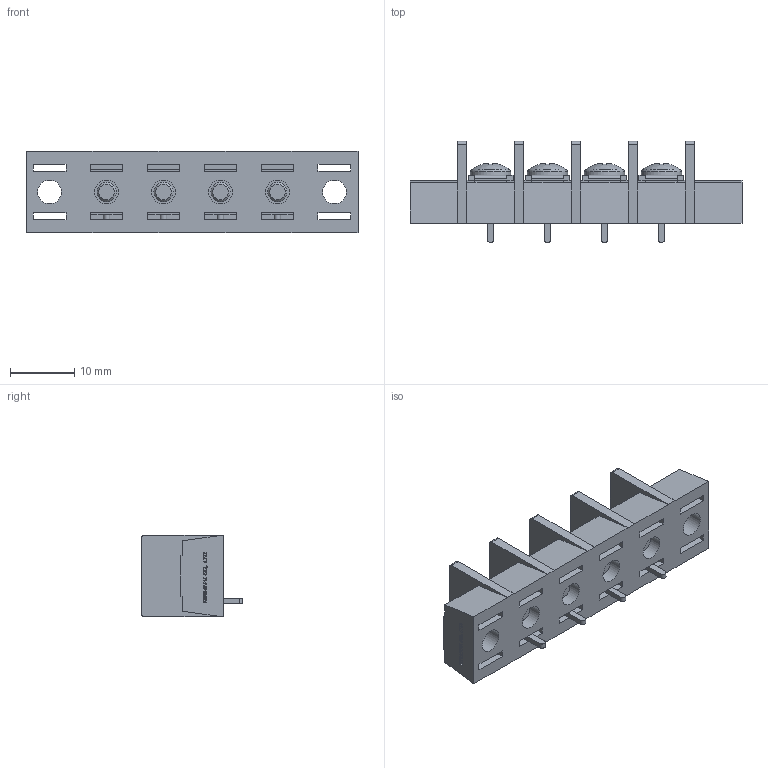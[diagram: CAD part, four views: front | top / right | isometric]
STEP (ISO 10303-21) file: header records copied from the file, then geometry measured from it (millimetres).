
FILE_DESCRIPTION(/* description */ ('Alibre Inc.'),/* implementation_level */ '2;1');
FILE_NAME(/* name */ 'export0',/* time_stamp */ '2015-10-20T19:49:30+09:00',/* author */ (''),/* organization */ (''),/* preprocessor_version */ 'ST-DEVELOPER v14',/* originating_system */ 'Alibre',/* authorisation */ '');
FILE_SCHEMA (('CONFIG_CONTROL_DESIGN'));
Length unit declared in the file: centimetre
Products named in the file (1): ID_1
Bounding box: 51.85 x 15.8 x 12.8 mm (x, y, z)
Volume: 4346.7 mm3; surface area: 5379.3 mm2
Topology: 1 solids, 69 shells, 1536 faces, 3970 edges, 2630 vertices
Faces by surface type: plane 1146, bspline 312, cylinder 46, cone 20, torus 8, sphere 4
Full cylindrical faces by diameter (mm): 3 x8, 3.7 x6, 4.6 x6, 6.3 x4
Entity records: 44759 total; most frequent: CARTESIAN_POINT 10891, ORIENTED_EDGE 7840, DIRECTION 4638, EDGE_CURVE 3920, VECTOR 3038, LINE 3038, VERTEX_POINT 2616, EDGE_LOOP 1698
